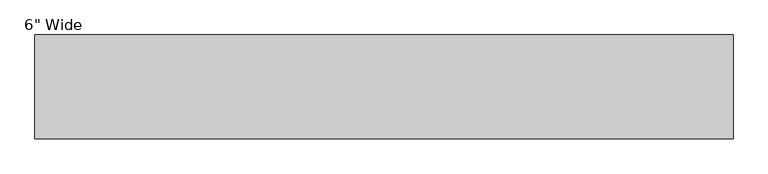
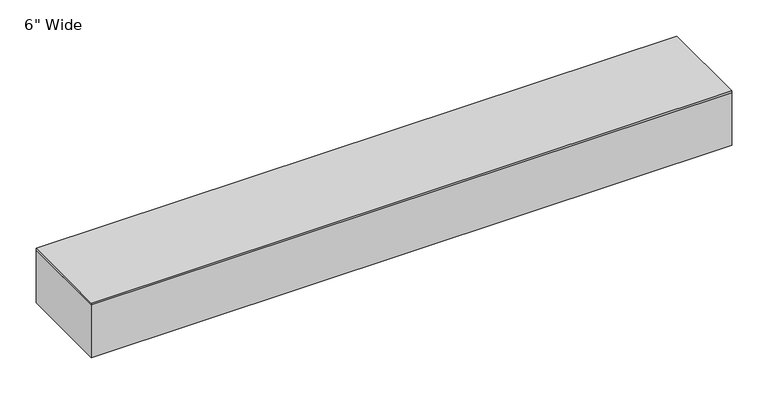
"""IFC4 building model written with IfcOpenShell, lengths in millimetres: proxy geometry."""

from ifc_helpers import new_model, si_unit, frame, origin, origin_with_axes, place, context, project, spatial, polyline, outline, extrude, source, transform, mapped, element, save


def proxy_a396cd5e(model_context):
    return source(origin(), model_context, "Body", "SweptSolid", [
        extrude(outline(polyline([(1022.5626011, 76.2), (1022.5626011, -76.2), (0.0, -76.2), (0.0, 76.2), (1022.5626011, 76.2)])), frame((0.0, 0.0, 88.9), z_axis=(0.0, 0.0, 1.0), x_axis=(1.0, 0.0, 0.0)), (0.0, 0.0, 1.0), 3.175),
        extrude(outline(polyline([(1022.5626011, 76.2), (1022.5626011, -76.2), (0.0, -76.2), (0.0, 76.2), (1022.5626011, 76.2)])), origin_with_axes(), (0.0, 0.0, 1.0), 88.9),
    ])


if __name__ == "__main__":
    model = new_model("IFC4")
    model_context = context("Model", 3, world=origin())
    ifc_project = project(units=[si_unit("LENGTHUNIT", "METRE", prefix="MILLI")], contexts=[model_context])
    site = spatial("IfcSite", under=ifc_project)
    building = spatial("IfcBuilding", under=site)
    placement = place(None, origin())
    proxy_shape = proxy_a396cd5e(model_context)
    element("IfcBuildingElementProxy", 1, Name="Duct-Wallduct-Wiremold : 6\" Wide", ObjectType="Duct-Wallduct-Wiremold : 6\" Wide", at=placement, inside=building, context=model_context, shape_type="MappedRepresentation", body=[
        mapped(proxy_shape, transform((0.0, 0.0, 0.0), x_axis=(1.0, 0.0, 0.0), y_axis=(0.0, 1.0, 0.0), z_axis=(0.0, 0.0, 1.0))),
    ])
    save(model, "model.ifc")
